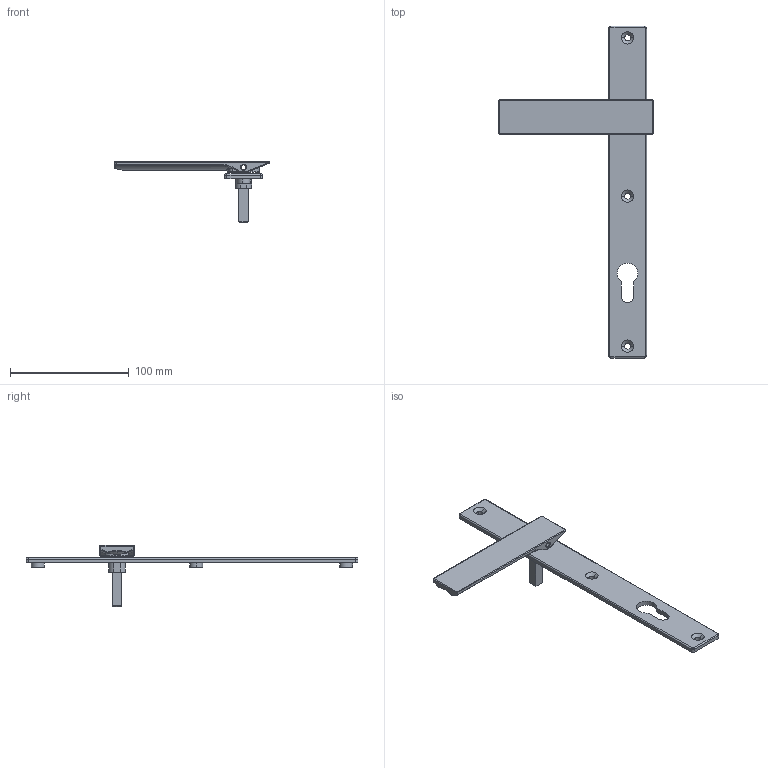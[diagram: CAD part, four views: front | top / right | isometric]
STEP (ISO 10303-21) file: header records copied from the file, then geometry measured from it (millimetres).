
FILE_DESCRIPTION (( 'STEP AP203' ), '1' );
FILE_NAME ('TPL-SS-002-37-A 22Apr2026.STEP', '2026-04-24T00:14:16', ( '' ), ( '' ), 'SwSTEP 2.0', 'SolidWorks 2023', '' );
FILE_SCHEMA (( 'CONFIG_CONTROL_DESIGN' ));
Length unit declared in the file: millimetre
Products named in the file (6): Copy of LKC-585 Rotator body zinc - simplified^TPL-SS-002 22Apr2026; TPL-SS-002-37-A 22Apr2026; Copy of LKC-506 Swing handle SS - simplified^TPL-SS-002 22Apr2026; Copy of LKC-586 Spindle square 8mm with M4 hole - simplified^TPL-SS-002 22Apr2026_37mm; Copy of Escutcheon plate keyed internal 280mm - simplified^TPL-SS-002 22Apr2026; Copy of LKC-584 Pivot body zinc - simplified^TPL-SS-002 22Apr2026
Assembly tree (5 placements, depth 2):
  TPL-SS-002-37-A 22Apr2026
    Copy of Escutcheon plate keyed internal 280mm - simplified^TPL-SS-002 22Apr2026
    Copy of LKC-586 Spindle square 8mm with M4 hole - simplified^TPL-SS-002 22Apr2026_37mm
    Copy of LKC-584 Pivot body zinc - simplified^TPL-SS-002 22Apr2026
    Copy of LKC-585 Rotator body zinc - simplified^TPL-SS-002 22Apr2026
    Copy of LKC-506 Swing handle SS - simplified^TPL-SS-002 22Apr2026
Bounding box: 130 x 280 x 51.55 mm (x, y, z)
Volume: 59512.9 mm3; surface area: 34169.9 mm2
Topology: 5 solids, 5 shells, 298 faces, 712 edges, 430 vertices
Faces by surface type: cylinder 113, plane 81, bspline 44, torus 36, cone 22, sphere 2
Entity records: 10250 total; most frequent: CARTESIAN_POINT 2934, ORIENTED_EDGE 1420, DIRECTION 1411, EDGE_CURVE 710, AXIS2_PLACEMENT_3D 559, VERTEX_POINT 430, EDGE_LOOP 332, FACE_OUTER_BOUND 298
